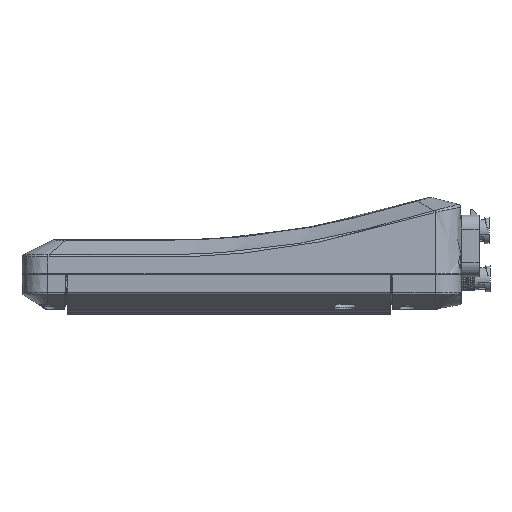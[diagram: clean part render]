
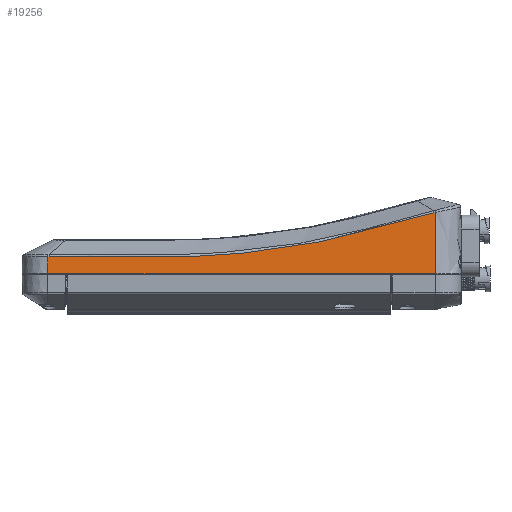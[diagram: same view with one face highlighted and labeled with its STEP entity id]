
A CAD part, left-side view. The second image highlights one B-rep face of the part: STEP entity #19256.
In plain terms, the highlighted planar face has unit normal (-0.999, 0, 0.035).
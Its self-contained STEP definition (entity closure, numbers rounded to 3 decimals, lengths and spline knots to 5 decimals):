
#842=B_SPLINE_CURVE_WITH_KNOTS('',3,(#39852,#39853,#39854,#39855),
 .UNSPECIFIED.,.F.,.F.,(4,4),(0.,0.00046),.UNSPECIFIED.);
#848=B_SPLINE_CURVE_WITH_KNOTS('',3,(#40062,#40063,#40064,#40065,#40066,
#40067,#40068,#40069,#40070,#40071,#40072,#40073,#40074,#40075,#40076,#40077),
 .UNSPECIFIED.,.F.,.F.,(4,1,1,1,1,1,1,1,1,1,1,1,1,4),(0.,
0.01886,0.0283,0.03773,0.04716,0.05659,
0.07545,0.08489,0.09432,0.09903,0.10375,
0.11318,0.13205,0.15091),.UNSPECIFIED.);
#853=B_SPLINE_CURVE_WITH_KNOTS('',3,(#40172,#40173,#40174,#40175),
 .UNSPECIFIED.,.F.,.F.,(4,4),(0.,0.00059),.UNSPECIFIED.);
#5734=ORIENTED_EDGE('',*,*,#9564,.T.);
#5735=ORIENTED_EDGE('',*,*,#9558,.T.);
#5736=ORIENTED_EDGE('',*,*,#9615,.F.);
#5737=ORIENTED_EDGE('',*,*,#9616,.T.);
#5738=ORIENTED_EDGE('',*,*,#9617,.T.);
#5739=ORIENTED_EDGE('',*,*,#9570,.T.);
#9558=EDGE_CURVE('',#11706,#11705,#842,.T.);
#9564=EDGE_CURVE('',#11709,#11706,#848,.T.);
#9570=EDGE_CURVE('',#11715,#11709,#853,.T.);
#9615=EDGE_CURVE('',#11744,#11705,#13135,.F.);
#9616=EDGE_CURVE('',#11744,#11745,#13136,.T.);
#9617=EDGE_CURVE('',#11745,#11715,#13137,.F.);
#11705=VERTEX_POINT('',#39851);
#11706=VERTEX_POINT('',#39856);
#11709=VERTEX_POINT('',#39923);
#11715=VERTEX_POINT('',#40176);
#11744=VERTEX_POINT('',#41218);
#11745=VERTEX_POINT('',#41220);
#13135=LINE('',#41217,#14338);
#13136=LINE('',#41219,#14339);
#13137=LINE('',#41221,#14340);
#14338=VECTOR('',#26891,1.);
#14339=VECTOR('',#26892,1.);
#14340=VECTOR('',#26893,1.);
#15761=EDGE_LOOP('',(#5734,#5735,#5736,#5737,#5738,#5739));
#17271=FACE_BOUND('',#15761,.T.);
#18061=PLANE('',#22621);
#19256=ADVANCED_FACE('',(#17271),#18061,.T.);
#22621=AXIS2_PLACEMENT_3D('',#41216,#26889,#26890);
#26889=DIRECTION('',(-0.999,0.,0.035));
#26890=DIRECTION('',(0.035,0.,0.999));
#26891=DIRECTION('',(-0.035,0.,-0.999));
#26892=DIRECTION('',(0.,-1.,0.));
#26893=DIRECTION('',(-0.035,0.,-0.999));
#39851=CARTESIAN_POINT('',(-0.06527,0.07,0.01832));
#39852=CARTESIAN_POINT('',(-0.06527,0.06954,0.01833));
#39853=CARTESIAN_POINT('',(-0.06527,0.06969,0.01833));
#39854=CARTESIAN_POINT('',(-0.06527,0.06985,0.01833));
#39855=CARTESIAN_POINT('',(-0.06527,0.07,0.01832));
#39856=CARTESIAN_POINT('',(-0.06527,0.06954,0.01833));
#39923=CARTESIAN_POINT('',(-0.06468,-0.07943,0.03529));
#40062=CARTESIAN_POINT('',(-0.06468,-0.07943,0.03529));
#40063=CARTESIAN_POINT('',(-0.06474,-0.07336,0.03363));
#40064=CARTESIAN_POINT('',(-0.06482,-0.06426,0.03117));
#40065=CARTESIAN_POINT('',(-0.06494,-0.05214,0.02781));
#40066=CARTESIAN_POINT('',(-0.06502,-0.04297,0.02561));
#40067=CARTESIAN_POINT('',(-0.06508,-0.03375,0.02369));
#40068=CARTESIAN_POINT('',(-0.06516,-0.0214,0.02152));
#40069=CARTESIAN_POINT('',(-0.06522,-0.00892,0.01992));
#40070=CARTESIAN_POINT('',(-0.06525,0.0036,0.01892));
#40071=CARTESIAN_POINT('',(-0.06527,0.01143,0.0185));
#40072=CARTESIAN_POINT('',(-0.06527,0.01771,0.01834));
#40073=CARTESIAN_POINT('',(-0.06527,0.02399,0.01832));
#40074=CARTESIAN_POINT('',(-0.06527,0.03499,0.01834));
#40075=CARTESIAN_POINT('',(-0.06527,0.05069,0.01833));
#40076=CARTESIAN_POINT('',(-0.06527,0.06326,0.01833));
#40077=CARTESIAN_POINT('',(-0.06527,0.06954,0.01833));
#40172=CARTESIAN_POINT('',(-0.06467,-0.08,0.03544));
#40173=CARTESIAN_POINT('',(-0.06468,-0.07981,0.03539));
#40174=CARTESIAN_POINT('',(-0.06468,-0.07962,0.03534));
#40175=CARTESIAN_POINT('',(-0.06468,-0.07943,0.03529));
#40176=CARTESIAN_POINT('',(-0.06467,-0.08,0.03544));
#41216=CARTESIAN_POINT('',(-0.0655,-0.09,0.0118));
#41217=CARTESIAN_POINT('',(-0.0655,0.07,0.0118));
#41218=CARTESIAN_POINT('',(-0.0655,0.07,0.0118));
#41219=CARTESIAN_POINT('',(-0.0655,-0.09,0.0118));
#41220=CARTESIAN_POINT('',(-0.0655,-0.08,0.0118));
#41221=CARTESIAN_POINT('',(-0.0655,-0.08,0.0118));
